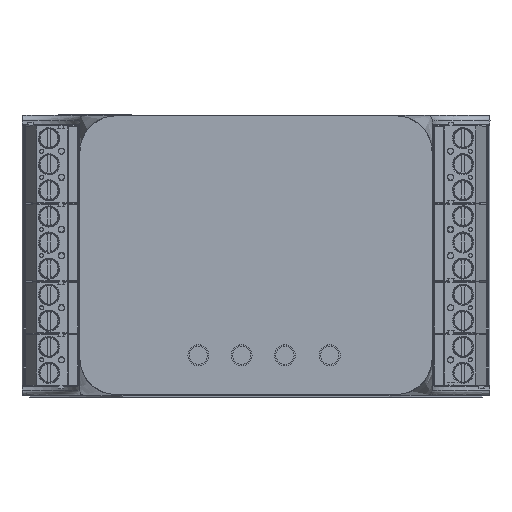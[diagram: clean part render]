
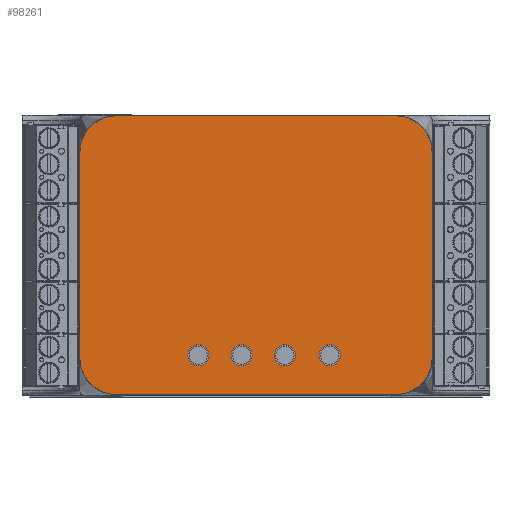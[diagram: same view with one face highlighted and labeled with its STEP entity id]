
A CAD part, top view. The second image highlights one B-rep face of the part: STEP entity #98261.
In plain terms, the highlighted planar face has unit normal (0, 0, 1).
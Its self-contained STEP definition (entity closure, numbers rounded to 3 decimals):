
#1556=FACE_BOUND('',#9441,.T.);
#1557=FACE_BOUND('',#9442,.T.);
#1558=FACE_BOUND('',#9443,.T.);
#1559=FACE_BOUND('',#9444,.T.);
#1926=CIRCLE('',#103487,2.);
#1928=CIRCLE('',#103490,2.);
#1930=CIRCLE('',#103493,2.);
#1932=CIRCLE('',#103496,2.);
#1934=CIRCLE('',#103499,7.);
#1935=CIRCLE('',#103502,7.);
#1936=CIRCLE('',#103503,7.);
#1937=CIRCLE('',#103504,7.);
#4375=FACE_OUTER_BOUND('',#9440,.T.);
#9440=EDGE_LOOP('',(#63170,#63171,#63172,#63173,#63174,#63175,#63176,#63177));
#9441=EDGE_LOOP('',(#63178));
#9442=EDGE_LOOP('',(#63179));
#9443=EDGE_LOOP('',(#63180));
#9444=EDGE_LOOP('',(#63181));
#15400=LINE('',#141584,#26858);
#15402=LINE('',#141588,#26860);
#15403=LINE('',#141592,#26861);
#15404=LINE('',#141596,#26862);
#26858=VECTOR('',#112100,10.);
#26860=VECTOR('',#112104,10.);
#26861=VECTOR('',#112107,10.);
#26862=VECTOR('',#112110,10.);
#38239=VERTEX_POINT('',#141553);
#38241=VERTEX_POINT('',#141559);
#38243=VERTEX_POINT('',#141565);
#38245=VERTEX_POINT('',#141571);
#38247=VERTEX_POINT('',#141577);
#38248=VERTEX_POINT('',#141579);
#38249=VERTEX_POINT('',#141583);
#38250=VERTEX_POINT('',#141587);
#38251=VERTEX_POINT('',#141589);
#38252=VERTEX_POINT('',#141591);
#38253=VERTEX_POINT('',#141593);
#38254=VERTEX_POINT('',#141595);
#47915=EDGE_CURVE('',#38239,#38239,#1926,.T.);
#47918=EDGE_CURVE('',#38241,#38241,#1928,.T.);
#47921=EDGE_CURVE('',#38243,#38243,#1930,.T.);
#47924=EDGE_CURVE('',#38245,#38245,#1932,.T.);
#47928=EDGE_CURVE('',#38247,#38248,#1934,.T.);
#47930=EDGE_CURVE('',#38249,#38248,#15400,.T.);
#47932=EDGE_CURVE('',#38247,#38250,#15402,.T.);
#47933=EDGE_CURVE('',#38251,#38250,#1935,.T.);
#47934=EDGE_CURVE('',#38251,#38252,#15403,.T.);
#47935=EDGE_CURVE('',#38253,#38252,#1936,.T.);
#47936=EDGE_CURVE('',#38253,#38254,#15404,.T.);
#47937=EDGE_CURVE('',#38249,#38254,#1937,.T.);
#63170=ORIENTED_EDGE('',*,*,#47928,.F.);
#63171=ORIENTED_EDGE('',*,*,#47932,.T.);
#63172=ORIENTED_EDGE('',*,*,#47933,.F.);
#63173=ORIENTED_EDGE('',*,*,#47934,.T.);
#63174=ORIENTED_EDGE('',*,*,#47935,.F.);
#63175=ORIENTED_EDGE('',*,*,#47936,.T.);
#63176=ORIENTED_EDGE('',*,*,#47937,.F.);
#63177=ORIENTED_EDGE('',*,*,#47930,.T.);
#63178=ORIENTED_EDGE('',*,*,#47915,.T.);
#63179=ORIENTED_EDGE('',*,*,#47918,.T.);
#63180=ORIENTED_EDGE('',*,*,#47921,.T.);
#63181=ORIENTED_EDGE('',*,*,#47924,.T.);
#88983=PLANE('',#103501);
#98261=ADVANCED_FACE('',(#4375,#1556,#1557,#1558,#1559),#88983,.T.);
#103487=AXIS2_PLACEMENT_3D('',#141554,#112066,#112067);
#103490=AXIS2_PLACEMENT_3D('',#141560,#112073,#112074);
#103493=AXIS2_PLACEMENT_3D('',#141566,#112080,#112081);
#103496=AXIS2_PLACEMENT_3D('',#141572,#112087,#112088);
#103499=AXIS2_PLACEMENT_3D('',#141580,#112095,#112096);
#103501=AXIS2_PLACEMENT_3D('',#141586,#112102,#112103);
#103502=AXIS2_PLACEMENT_3D('',#141590,#112105,#112106);
#103503=AXIS2_PLACEMENT_3D('',#141594,#112108,#112109);
#103504=AXIS2_PLACEMENT_3D('',#141597,#112111,#112112);
#112066=DIRECTION('center_axis',(0.,0.,-1.));
#112067=DIRECTION('ref_axis',(1.,0.,0.));
#112073=DIRECTION('center_axis',(0.,0.,-1.));
#112074=DIRECTION('ref_axis',(1.,0.,0.));
#112080=DIRECTION('center_axis',(0.,0.,-1.));
#112081=DIRECTION('ref_axis',(1.,0.,0.));
#112087=DIRECTION('center_axis',(0.,0.,-1.));
#112088=DIRECTION('ref_axis',(1.,0.,0.));
#112095=DIRECTION('center_axis',(0.,0.,-1.));
#112096=DIRECTION('ref_axis',(-0.707,-0.707,0.));
#112100=DIRECTION('',(0.,-1.,0.));
#112102=DIRECTION('center_axis',(0.,0.,1.));
#112103=DIRECTION('ref_axis',(0.,1.,0.));
#112104=DIRECTION('',(1.,0.,0.));
#112105=DIRECTION('center_axis',(0.,0.,-1.));
#112106=DIRECTION('ref_axis',(0.707,-0.707,0.));
#112107=DIRECTION('',(0.,1.,0.));
#112108=DIRECTION('center_axis',(0.,0.,-1.));
#112109=DIRECTION('ref_axis',(0.707,0.707,0.));
#112110=DIRECTION('',(-1.,0.,0.));
#112111=DIRECTION('center_axis',(0.,0.,-1.));
#112112=DIRECTION('ref_axis',(-0.707,0.707,0.));
#141553=CARTESIAN_POINT('',(-4.75,-19.196,52.886));
#141554=CARTESIAN_POINT('Origin',(-2.75,-19.196,52.886));
#141559=CARTESIAN_POINT('',(12.15,-19.196,52.886));
#141560=CARTESIAN_POINT('Origin',(14.15,-19.196,52.886));
#141565=CARTESIAN_POINT('',(3.55,-19.196,52.886));
#141566=CARTESIAN_POINT('Origin',(5.55,-19.196,52.886));
#141571=CARTESIAN_POINT('',(-13.05,-19.196,52.886));
#141572=CARTESIAN_POINT('Origin',(-11.05,-19.196,52.886));
#141577=CARTESIAN_POINT('',(-26.772,-26.727,52.886));
#141579=CARTESIAN_POINT('',(-33.772,-19.727,52.886));
#141580=CARTESIAN_POINT('Origin',(-26.772,-19.727,52.886));
#141583=CARTESIAN_POINT('',(-33.772,19.728,52.886));
#141584=CARTESIAN_POINT('',(-33.772,26.728,52.886));
#141586=CARTESIAN_POINT('Origin',(5.79,-17.832,52.886));
#141587=CARTESIAN_POINT('',(26.772,-26.727,52.886));
#141588=CARTESIAN_POINT('',(-33.772,-26.727,52.886));
#141589=CARTESIAN_POINT('',(33.772,-19.727,52.886));
#141590=CARTESIAN_POINT('Origin',(26.772,-19.727,52.886));
#141591=CARTESIAN_POINT('',(33.772,19.728,52.886));
#141592=CARTESIAN_POINT('',(33.772,-26.727,52.886));
#141593=CARTESIAN_POINT('',(26.772,26.728,52.886));
#141594=CARTESIAN_POINT('Origin',(26.772,19.728,52.886));
#141595=CARTESIAN_POINT('',(-26.772,26.728,52.886));
#141596=CARTESIAN_POINT('',(33.772,26.728,52.886));
#141597=CARTESIAN_POINT('Origin',(-26.772,19.728,52.886));
